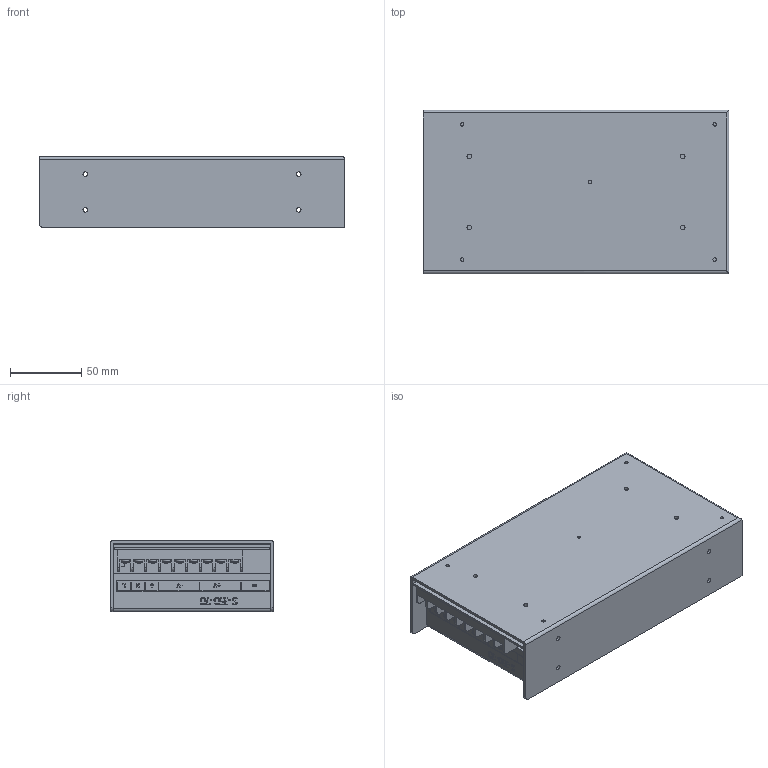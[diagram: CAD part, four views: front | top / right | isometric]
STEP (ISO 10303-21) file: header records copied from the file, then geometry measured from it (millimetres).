
FILE_DESCRIPTION(('STEP AP203'), '1');
FILE_NAME('Èñòî÷íèê ïèòàíèÿ èìïóëüñíûé S-350-70', '2022-09-23T11:10:46', ('q'), (''), 'ASCON STEP Converter 1.6', 'ASCON Math Kernel', '');
FILE_SCHEMA(('CONFIG_CONTROL_DESIGN'));
Length unit declared in the file: millimetre
Assembly tree (9 placements, depth 2):
  (unnamed)
    (unnamed)  x9
Bounding box: 215 x 115 x 50 mm (x, y, z)
Volume: 198304.3 mm3; surface area: 204851.2 mm2
Topology: 37 solids, 37 shells, 1275 faces, 3515 edges, 2333 vertices
Faces by surface type: plane 606, cylinder 570, bspline 72, torus 18, sphere 9
Full cylindrical faces by diameter (mm): 2.459 x5, 3 x9, 3.242 x12, 4 x13, 5.6 x9
Entity records: 42995 total; most frequent: CARTESIAN_POINT 6184, DIRECTION 6113, ORIENTED_EDGE 5808, EDGE_CURVE 2904, AXIS2_PLACEMENT_3D 2168, VERTEX_POINT 1957, LINE 1777, VECTOR 1777
